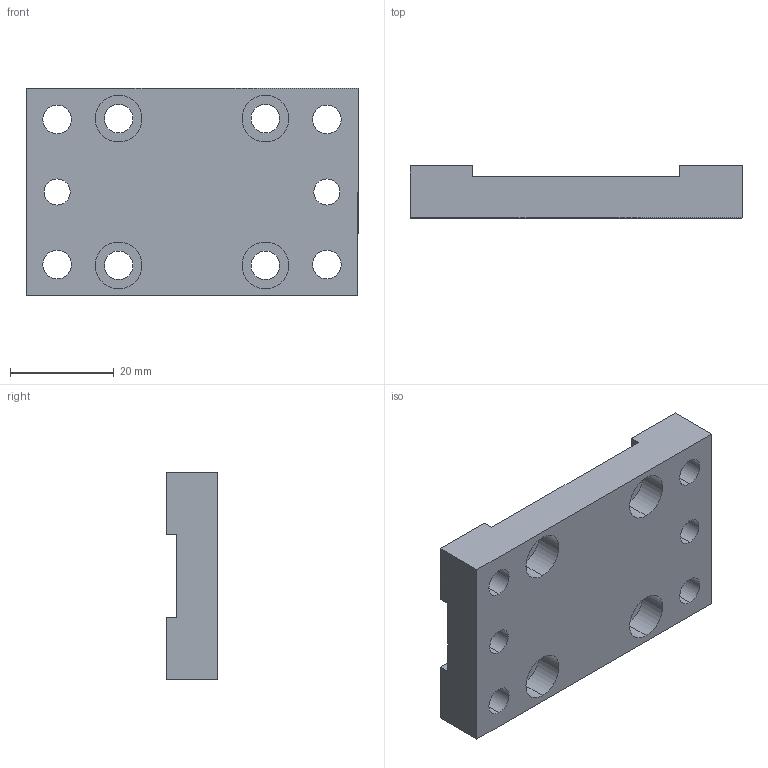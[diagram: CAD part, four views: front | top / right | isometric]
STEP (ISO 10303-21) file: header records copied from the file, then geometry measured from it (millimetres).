
FILE_DESCRIPTION (( 'STEP AP203' ), '1' );
FILE_NAME ('T25S.step', '2017-02-15T12:26:06', ( '' ), ( '' ), 'SwSTEP 2.0', 'SolidWorks 2012', '' );
FILE_SCHEMA (( 'CONFIG_CONTROL_DESIGN' ));
Length unit declared in the file: millimetre
Products named in the file (1): T25S
Bounding box: 64 x 10 x 40 mm (x, y, z)
Volume: 17882.8 mm3; surface area: 8680.1 mm2
Topology: 1 solids, 1 shells, 62 faces, 156 edges, 104 vertices
Faces by surface type: cylinder 36, plane 26
Entity records: 2009 total; most frequent: DIRECTION 354, CARTESIAN_POINT 323, ORIENTED_EDGE 312, EDGE_CURVE 156, AXIS2_PLACEMENT_3D 135, VERTEX_POINT 104, EDGE_LOOP 90, VECTOR 84
